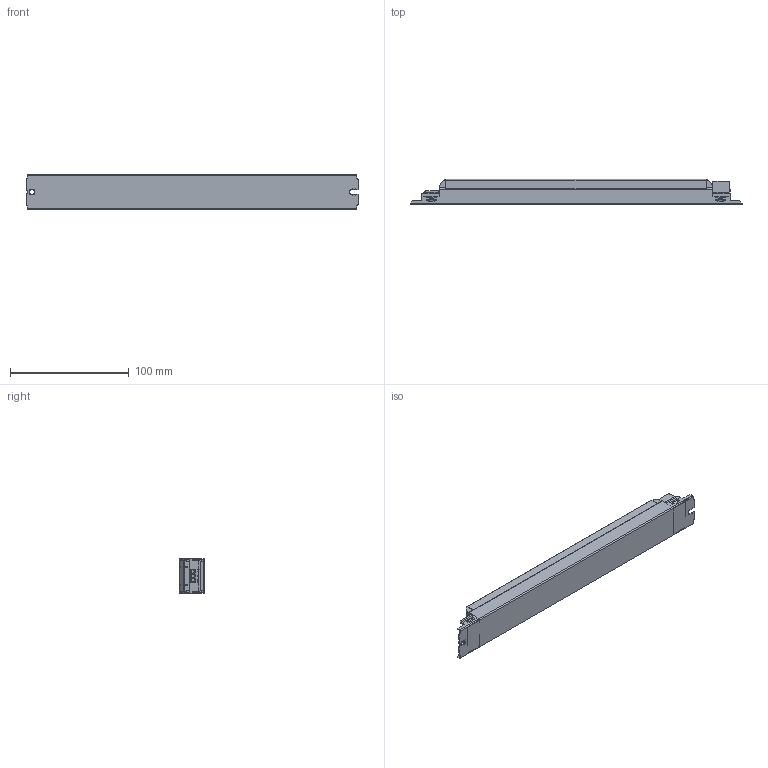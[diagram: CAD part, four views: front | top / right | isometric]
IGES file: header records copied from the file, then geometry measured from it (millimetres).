
Start section: SolidWorks IGES file using analytic representation for surfaces
Global section: file name: D:\ECTR_TEMP\OLQ-batchEngine\queue\temp\4168222swm000.igs; native system: SolidWorks 2017; preprocessor: SolidWorks 2017; author: SYSTEM; date: 191123.110527; units: millimetre
Bounding box: 279 x 21 x 30 mm (x, y, z)
Surface area: 34094.9 mm2 (no closed solid volume)
Topology: 0 solids, 0 shells, 760 faces, 6017 edges, 6017 vertices
Faces by surface type: bspline 537, revolution 223
